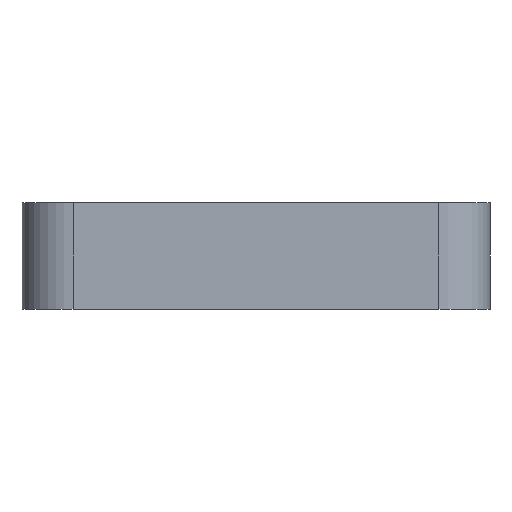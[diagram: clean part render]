
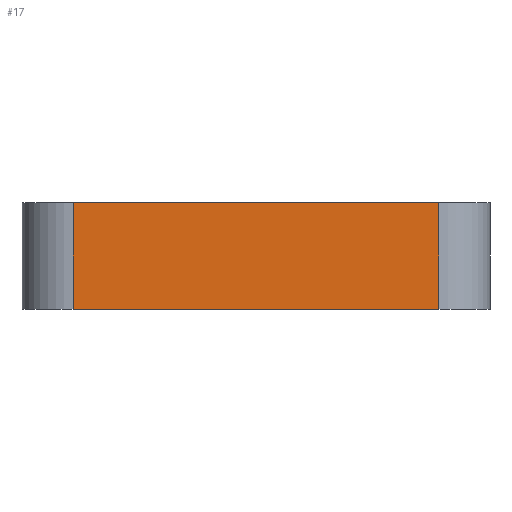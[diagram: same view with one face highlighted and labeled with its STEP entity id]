
A CAD part, left-side view. The second image highlights one B-rep face of the part: STEP entity #17.
In plain terms, the highlighted planar face has unit normal (-1, 0, 0).
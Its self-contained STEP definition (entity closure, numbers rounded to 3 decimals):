
#17 = ADVANCED_FACE('',(#18),#32,.F.);
#18 = FACE_BOUND('',#19,.F.);
#19 = EDGE_LOOP('',(#20,#55,#83,#111));
#20 = ORIENTED_EDGE('',*,*,#21,.F.);
#21 = EDGE_CURVE('',#22,#24,#26,.T.);
#22 = VERTEX_POINT('',#23);
#23 = CARTESIAN_POINT('',(-55.,-43.,25.));
#24 = VERTEX_POINT('',#25);
#25 = CARTESIAN_POINT('',(-55.,43.,25.));
#26 = SURFACE_CURVE('',#27,(#31,#43),.PCURVE_S1.);
#27 = LINE('',#28,#29);
#28 = CARTESIAN_POINT('',(-55.,-55.,25.));
#29 = VECTOR('',#30,1.);
#30 = DIRECTION('',(0.,1.,0.));
#31 = PCURVE('',#32,#37);
#32 = PLANE('',#33);
#33 = AXIS2_PLACEMENT_3D('',#34,#35,#36);
#34 = CARTESIAN_POINT('',(-55.,-55.,0.));
#35 = DIRECTION('',(1.,0.,0.));
#36 = DIRECTION('',(0.,0.,1.));
#37 = DEFINITIONAL_REPRESENTATION('',(#38),#42);
#38 = LINE('',#39,#40);
#39 = CARTESIAN_POINT('',(25.,0.));
#40 = VECTOR('',#41,1.);
#41 = DIRECTION('',(0.,-1.));
#42 = ( GEOMETRIC_REPRESENTATION_CONTEXT(2) 
PARAMETRIC_REPRESENTATION_CONTEXT() REPRESENTATION_CONTEXT('2D SPACE',''
  ) );
#43 = PCURVE('',#44,#49);
#44 = PLANE('',#45);
#45 = AXIS2_PLACEMENT_3D('',#46,#47,#48);
#46 = CARTESIAN_POINT('',(-55.,-55.,25.));
#47 = DIRECTION('',(0.,0.,1.));
#48 = DIRECTION('',(1.,0.,0.));
#49 = DEFINITIONAL_REPRESENTATION('',(#50),#54);
#50 = LINE('',#51,#52);
#51 = CARTESIAN_POINT('',(0.,0.));
#52 = VECTOR('',#53,1.);
#53 = DIRECTION('',(0.,1.));
#54 = ( GEOMETRIC_REPRESENTATION_CONTEXT(2) 
PARAMETRIC_REPRESENTATION_CONTEXT() REPRESENTATION_CONTEXT('2D SPACE',''
  ) );
#55 = ORIENTED_EDGE('',*,*,#56,.F.);
#56 = EDGE_CURVE('',#57,#22,#59,.T.);
#57 = VERTEX_POINT('',#58);
#58 = CARTESIAN_POINT('',(-55.,-43.,0.));
#59 = SURFACE_CURVE('',#60,(#64,#71),.PCURVE_S1.);
#60 = LINE('',#61,#62);
#61 = CARTESIAN_POINT('',(-55.,-43.,0.));
#62 = VECTOR('',#63,1.);
#63 = DIRECTION('',(0.,0.,1.));
#64 = PCURVE('',#32,#65);
#65 = DEFINITIONAL_REPRESENTATION('',(#66),#70);
#66 = LINE('',#67,#68);
#67 = CARTESIAN_POINT('',(0.,-12.));
#68 = VECTOR('',#69,1.);
#69 = DIRECTION('',(1.,0.));
#70 = ( GEOMETRIC_REPRESENTATION_CONTEXT(2) 
PARAMETRIC_REPRESENTATION_CONTEXT() REPRESENTATION_CONTEXT('2D SPACE',''
  ) );
#71 = PCURVE('',#72,#77);
#72 = CYLINDRICAL_SURFACE('',#73,12.);
#73 = AXIS2_PLACEMENT_3D('',#74,#75,#76);
#74 = CARTESIAN_POINT('',(-43.,-43.,0.));
#75 = DIRECTION('',(0.,0.,1.));
#76 = DIRECTION('',(-1.,-0.,0.));
#77 = DEFINITIONAL_REPRESENTATION('',(#78),#82);
#78 = LINE('',#79,#80);
#79 = CARTESIAN_POINT('',(0.,0.));
#80 = VECTOR('',#81,1.);
#81 = DIRECTION('',(0.,1.));
#82 = ( GEOMETRIC_REPRESENTATION_CONTEXT(2) 
PARAMETRIC_REPRESENTATION_CONTEXT() REPRESENTATION_CONTEXT('2D SPACE',''
  ) );
#83 = ORIENTED_EDGE('',*,*,#84,.T.);
#84 = EDGE_CURVE('',#57,#85,#87,.T.);
#85 = VERTEX_POINT('',#86);
#86 = CARTESIAN_POINT('',(-55.,43.,0.));
#87 = SURFACE_CURVE('',#88,(#92,#99),.PCURVE_S1.);
#88 = LINE('',#89,#90);
#89 = CARTESIAN_POINT('',(-55.,-55.,0.));
#90 = VECTOR('',#91,1.);
#91 = DIRECTION('',(0.,1.,0.));
#92 = PCURVE('',#32,#93);
#93 = DEFINITIONAL_REPRESENTATION('',(#94),#98);
#94 = LINE('',#95,#96);
#95 = CARTESIAN_POINT('',(0.,0.));
#96 = VECTOR('',#97,1.);
#97 = DIRECTION('',(0.,-1.));
#98 = ( GEOMETRIC_REPRESENTATION_CONTEXT(2) 
PARAMETRIC_REPRESENTATION_CONTEXT() REPRESENTATION_CONTEXT('2D SPACE',''
  ) );
#99 = PCURVE('',#100,#105);
#100 = PLANE('',#101);
#101 = AXIS2_PLACEMENT_3D('',#102,#103,#104);
#102 = CARTESIAN_POINT('',(-55.,-55.,0.));
#103 = DIRECTION('',(0.,0.,1.));
#104 = DIRECTION('',(1.,0.,0.));
#105 = DEFINITIONAL_REPRESENTATION('',(#106),#110);
#106 = LINE('',#107,#108);
#107 = CARTESIAN_POINT('',(0.,0.));
#108 = VECTOR('',#109,1.);
#109 = DIRECTION('',(0.,1.));
#110 = ( GEOMETRIC_REPRESENTATION_CONTEXT(2) 
PARAMETRIC_REPRESENTATION_CONTEXT() REPRESENTATION_CONTEXT('2D SPACE',''
  ) );
#111 = ORIENTED_EDGE('',*,*,#112,.T.);
#112 = EDGE_CURVE('',#85,#24,#113,.T.);
#113 = SURFACE_CURVE('',#114,(#118,#125),.PCURVE_S1.);
#114 = LINE('',#115,#116);
#115 = CARTESIAN_POINT('',(-55.,43.,0.));
#116 = VECTOR('',#117,1.);
#117 = DIRECTION('',(0.,0.,1.));
#118 = PCURVE('',#32,#119);
#119 = DEFINITIONAL_REPRESENTATION('',(#120),#124);
#120 = LINE('',#121,#122);
#121 = CARTESIAN_POINT('',(0.,-98.));
#122 = VECTOR('',#123,1.);
#123 = DIRECTION('',(1.,0.));
#124 = ( GEOMETRIC_REPRESENTATION_CONTEXT(2) 
PARAMETRIC_REPRESENTATION_CONTEXT() REPRESENTATION_CONTEXT('2D SPACE',''
  ) );
#125 = PCURVE('',#126,#131);
#126 = CYLINDRICAL_SURFACE('',#127,12.);
#127 = AXIS2_PLACEMENT_3D('',#128,#129,#130);
#128 = CARTESIAN_POINT('',(-43.,43.,0.));
#129 = DIRECTION('',(0.,0.,1.));
#130 = DIRECTION('',(-1.,-0.,0.));
#131 = DEFINITIONAL_REPRESENTATION('',(#132),#136);
#132 = LINE('',#133,#134);
#133 = CARTESIAN_POINT('',(-0.,0.));
#134 = VECTOR('',#135,1.);
#135 = DIRECTION('',(-0.,1.));
#136 = ( GEOMETRIC_REPRESENTATION_CONTEXT(2) 
PARAMETRIC_REPRESENTATION_CONTEXT() REPRESENTATION_CONTEXT('2D SPACE',''
  ) );
